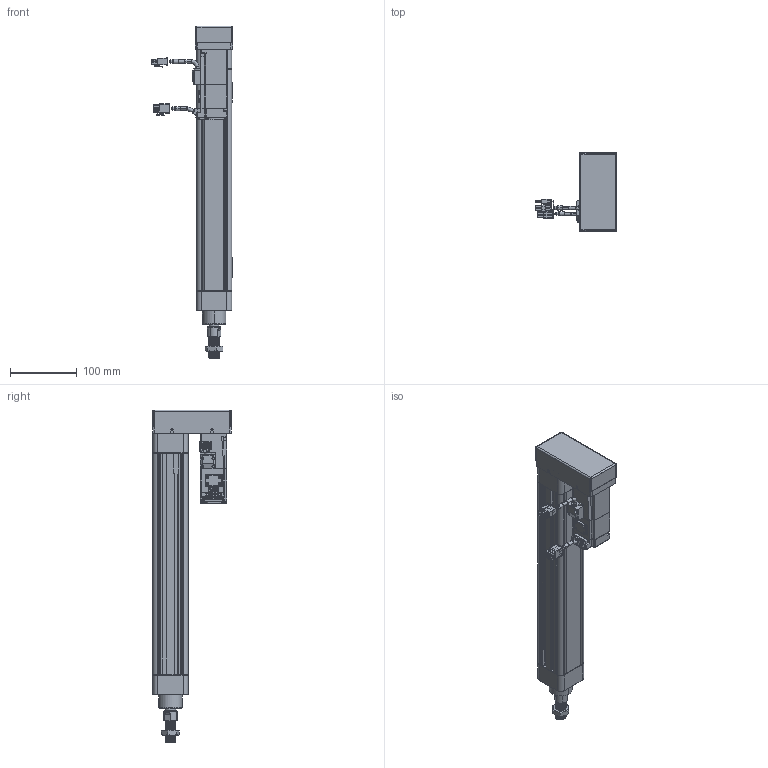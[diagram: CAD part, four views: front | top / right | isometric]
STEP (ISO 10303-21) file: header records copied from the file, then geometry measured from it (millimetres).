
FILE_DESCRIPTION (( 'STEP AP203' ), '1' );
FILE_NAME ('VEC50-10-C-250-MF-ZP10B-MS2.STEP', '2019-01-26T02:50:36', ( 'vobosh 6' ), ( 'Microsoft' ), 'SwSTEP 2.0', 'SolidWorks 2016', '' );
FILE_SCHEMA (( 'CONFIG_CONTROL_DESIGN' ));
Length unit declared in the file: millimetre
Products named in the file (12): 鞠褒蹟譫M16x1.5; VEC50-MF-200-004-X1; VEC50-MF-200-001-X1; MHMF012L1V2; VEC50-MF-200-002-X1; VEC50-MF-200-005-X1; VEC50-MF-200-003-X1; VEC50-10-C-250-MF-ZP10B-MS2; 带尾螺母M6x9x45（镀镍）; 柈ч肣薦え耳9x耳8.5x4.4; VEC50-MF-200-011-X1; CS1-M
Assembly tree (20 placements, depth 2):
  VEC50-10-C-250-MF-ZP10B-MS2
    VEC50-MF-200-001-X1
    VEC50-MF-200-002-X1
    VEC50-MF-200-003-X1
    带尾螺母M6x9x45（镀镍）  x8
    柈ч肣薦え耳9x耳8.5x4.4  x2
    VEC50-MF-200-011-X1
    CS1-M  x2
    鞠褒蹟譫M16x1.5
    VEC50-MF-200-004-X1
    MHMF012L1V2
    VEC50-MF-200-005-X1
Bounding box: 122.5 x 118 x 499 mm (x, y, z)
Volume: 826069.9 mm3; surface area: 299157.8 mm2
Topology: 27 solids, 27 shells, 1970 faces, 4861 edges, 3048 vertices
Faces by surface type: plane 902, cylinder 703, cone 239, bspline 117, torus 9
Entity records: 59744 total; most frequent: CARTESIAN_POINT 16772, DIRECTION 8631, ORIENTED_EDGE 8630, EDGE_CURVE 4315, AXIS2_PLACEMENT_3D 2988, VERTEX_POINT 2755, LINE 2655, VECTOR 2655
